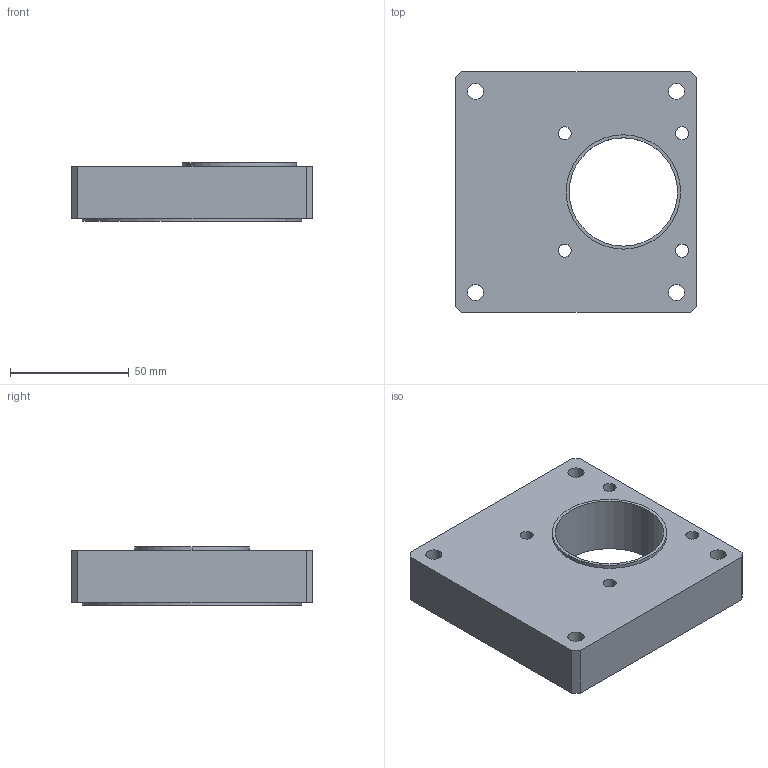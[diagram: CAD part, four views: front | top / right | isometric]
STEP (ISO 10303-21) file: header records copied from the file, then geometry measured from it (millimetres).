
FILE_DESCRIPTION (( 'STEP AP214' ), '1' );
FILE_NAME ('MISC1812FS120MTRFLG.STEP', '2021-03-08T22:54:22', ( '' ), ( '' ), 'SwSTEP 2.0', 'SolidWorks 2021', '' );
FILE_SCHEMA (( 'AUTOMOTIVE_DESIGN' ));
Length unit declared in the file: millimetre
Products named in the file (1): MISC1812FS120MTRFLG
Bounding box: 101.6 x 101.6 x 24.6 mm (x, y, z)
Volume: 190370.2 mm3; surface area: 33517.4 mm2
Topology: 1 solids, 1 shells, 47 faces, 123 edges, 82 vertices
Faces by surface type: cylinder 31, plane 16
Entity records: 1641 total; most frequent: DIRECTION 285, CARTESIAN_POINT 253, ORIENTED_EDGE 246, EDGE_CURVE 123, AXIS2_PLACEMENT_3D 114, VERTEX_POINT 82, EDGE_LOOP 69, CIRCLE 66
